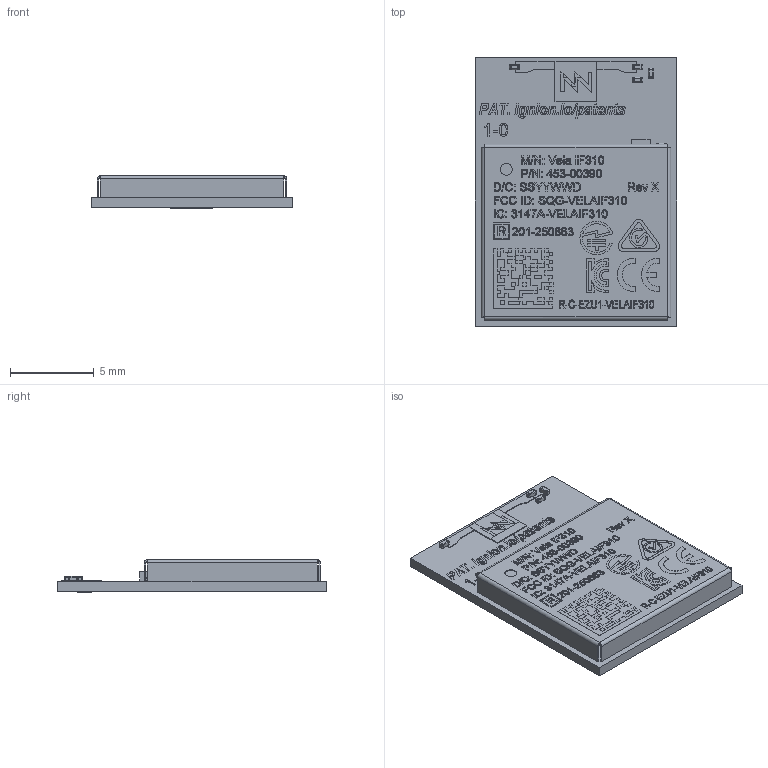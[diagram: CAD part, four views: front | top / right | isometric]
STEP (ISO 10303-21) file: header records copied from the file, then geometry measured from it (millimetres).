
FILE_DESCRIPTION (( 'STEP AP214' ), '1' );
FILE_NAME ('453-00390.STEP', '2025-11-25T09:31:47', ( '' ), ( '' ), 'SwSTEP 2.0', 'SolidWorks 2025', '' );
FILE_SCHEMA (( 'AUTOMOTIVE_DESIGN' ));
Length unit declared in the file: millimetre
Products named in the file (1): 453-00390
Bounding box: 12 x 16 x 1.95 mm (x, y, z)
Volume: 148.6 mm3; surface area: 943.3 mm2
Topology: 249 solids, 249 shells, 4465 faces, 10773 edges, 6881 vertices
Faces by surface type: plane 3007, bspline 795, cylinder 503, sphere 160
Entity records: 214798 total; most frequent: CARTESIAN_POINT 64876, ORIENTED_EDGE 21226, DIRECTION 17319, EDGE_CURVE 10613, LINE 7973, VECTOR 7973, VERTEX_POINT 6881, UNCERTAINTY_MEASURE_WITH_UNIT 4713
